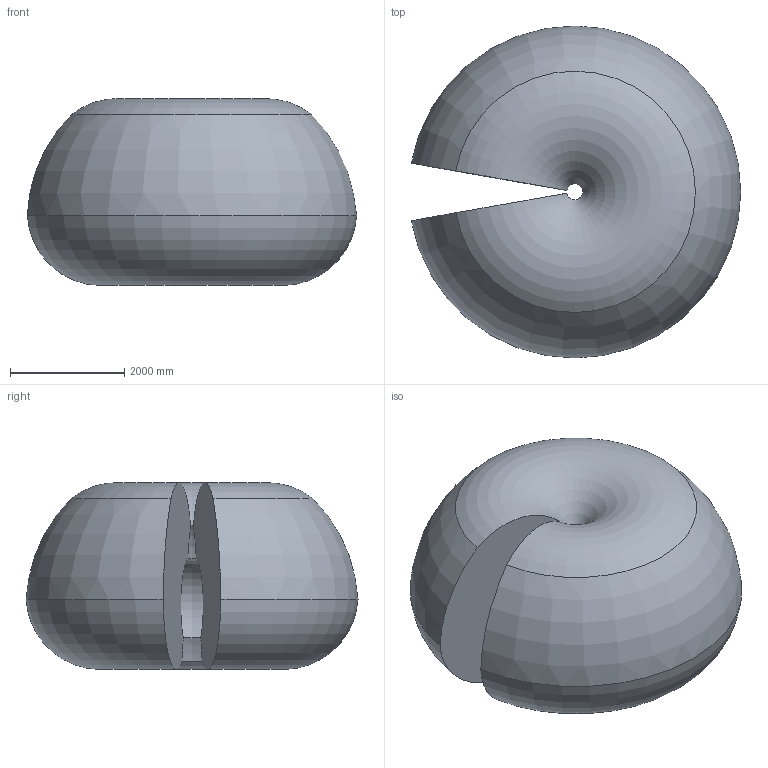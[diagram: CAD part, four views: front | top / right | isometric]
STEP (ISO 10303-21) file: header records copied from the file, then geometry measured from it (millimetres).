
FILE_DESCRIPTION (( 'STEP AP214' ), '1' );
FILE_NAME ('IRB7720_All-290_OC_00_Working-space.step', '2026-01-28T13:12:38', ( '' ), ( '' ), 'SwSTEP 2.0', 'SolidWorks 2024', '' );
FILE_SCHEMA (( 'AUTOMOTIVE_DESIGN' ));
Length unit declared in the file: millimetre
Products named in the file (1): IRB7720_All-290_OC_00_Working-space
Bounding box: 5761.94 x 5806.05 x 3264.71 mm (x, y, z)
Volume: 58042220156.9 mm3; surface area: 103791623.8 mm2
Topology: 1 solids, 1 shells, 8 faces, 18 edges, 12 vertices
Faces by surface type: torus 6, plane 2
Entity records: 263 total; most frequent: DIRECTION 54, CARTESIAN_POINT 39, ORIENTED_EDGE 36, AXIS2_PLACEMENT_3D 27, EDGE_CURVE 18, CIRCLE 18, VERTEX_POINT 12, ADVANCED_FACE 8
